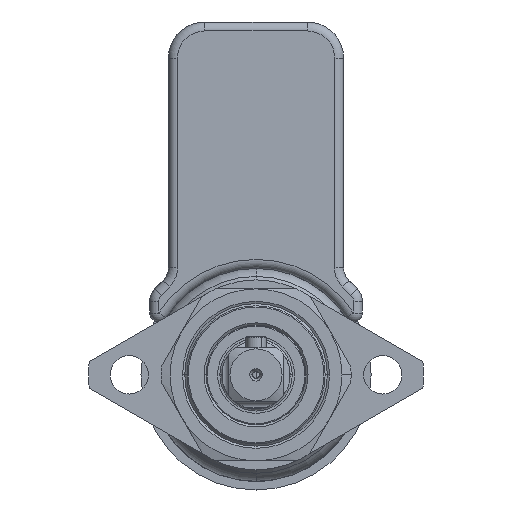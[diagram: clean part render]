
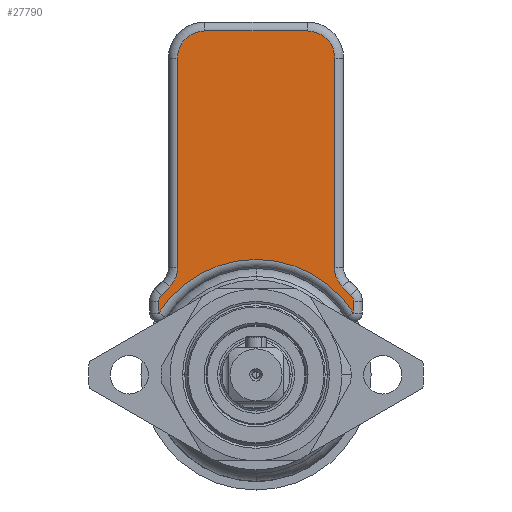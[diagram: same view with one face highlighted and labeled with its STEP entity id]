
A CAD part, left-side view. The second image highlights one B-rep face of the part: STEP entity #27790.
In plain terms, the highlighted planar face has unit normal (-1, 0, 0).
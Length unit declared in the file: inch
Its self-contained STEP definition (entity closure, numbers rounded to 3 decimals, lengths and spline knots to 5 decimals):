
#879 = VERTEX_POINT ( 'NONE', #36012 ) ;
#881 = VERTEX_POINT ( 'NONE', #36018 ) ;
#887 = VERTEX_POINT ( 'NONE', #36024 ) ;
#889 = VERTEX_POINT ( 'NONE', #35983 ) ;
#890 = VERTEX_POINT ( 'NONE', #35972 ) ;
#892 = VERTEX_POINT ( 'NONE', #36028 ) ;
#894 = VERTEX_POINT ( 'NONE', #35969 ) ;
#899 = VERTEX_POINT ( 'NONE', #35855 ) ;
#901 = VERTEX_POINT ( 'NONE', #35925 ) ;
#903 = VERTEX_POINT ( 'NONE', #35852 ) ;
#904 = VERTEX_POINT ( 'NONE', #35921 ) ;
#905 = VERTEX_POINT ( 'NONE', #35923 ) ;
#906 = VERTEX_POINT ( 'NONE', #35917 ) ;
#914 = VERTEX_POINT ( 'NONE', #35901 ) ;
#3788 = ORIENTED_EDGE ( 'NONE', *, *, #8491, .T. ) ;
#4080 = ORIENTED_EDGE ( 'NONE', *, *, #8194, .T. ) ;
#4081 = ORIENTED_EDGE ( 'NONE', *, *, #8193, .T. ) ;
#4083 = ORIENTED_EDGE ( 'NONE', *, *, #8074, .T. ) ;
#4084 = ORIENTED_EDGE ( 'NONE', *, *, #8197, .T. ) ;
#4085 = ORIENTED_EDGE ( 'NONE', *, *, #8192, .T. ) ;
#4087 = ORIENTED_EDGE ( 'NONE', *, *, #8073, .T. ) ;
#4088 = ORIENTED_EDGE ( 'NONE', *, *, #8075, .T. ) ;
#4090 = ORIENTED_EDGE ( 'NONE', *, *, #8468, .T. ) ;
#4092 = ORIENTED_EDGE ( 'NONE', *, *, #8198, .T. ) ;
#4093 = ORIENTED_EDGE ( 'NONE', *, *, #8476, .T. ) ;
#4094 = ORIENTED_EDGE ( 'NONE', *, *, #8480, .T. ) ;
#4120 = ORIENTED_EDGE ( 'NONE', *, *, #8484, .T. ) ;
#4123 = ORIENTED_EDGE ( 'NONE', *, *, #8489, .T. ) ;
#4630 = EDGE_LOOP ( 'NONE', ( #4123, #3788, #4120, #4094, #4093, #4090, #4092, #4083, #4088, #4087, #4081, #4080, #4085, #4084 ) ) ;
#5596 = CIRCLE ( 'NONE', #9126, 0.187 ) ;
#5600 = CIRCLE ( 'NONE', #9128, 0.063 ) ;
#5604 = LINE ( 'NONE', #16882, #5608 ) ;
#5608 = VECTOR ( 'NONE', #17039, 39.37008 ) ;
#5977 = LINE ( 'NONE', #31012, #5982 ) ;
#5981 = LINE ( 'NONE', #31015, #5987 ) ;
#5982 = VECTOR ( 'NONE', #30971, 39.37008 ) ;
#5984 = CIRCLE ( 'NONE', #9180, 0.188 ) ;
#5987 = VECTOR ( 'NONE', #30960, 39.37008 ) ;
#5991 = CIRCLE ( 'NONE', #9187, 0.188 ) ;
#5994 = LINE ( 'NONE', #31006, #5999 ) ;
#5999 = VECTOR ( 'NONE', #30952, 39.37008 ) ;
#6472 = CIRCLE ( 'NONE', #9338, 0.797 ) ;
#6475 = LINE ( 'NONE', #15514, #6479 ) ;
#6477 = CIRCLE ( 'NONE', #9349, 0.063 ) ;
#6479 = VECTOR ( 'NONE', #15510, 39.37008 ) ;
#6480 = LINE ( 'NONE', #15526, #6484 ) ;
#6482 = LINE ( 'NONE', #15532, #6487 ) ;
#6484 = VECTOR ( 'NONE', #15522, 39.37008 ) ;
#6486 = CIRCLE ( 'NONE', #9356, 0.187 ) ;
#6487 = VECTOR ( 'NONE', #15518, 39.37008 ) ;
#8073 = EDGE_CURVE ( 'NONE', #892, #890, #5596, .T. ) ;
#8074 = EDGE_CURVE ( 'NONE', #903, #894, #5600, .T. ) ;
#8075 = EDGE_CURVE ( 'NONE', #894, #892, #5604, .T. ) ;
#8192 = EDGE_CURVE ( 'NONE', #879, #889, #5977, .T. ) ;
#8193 = EDGE_CURVE ( 'NONE', #890, #881, #5981, .T. ) ;
#8194 = EDGE_CURVE ( 'NONE', #881, #879, #5984, .T. ) ;
#8197 = EDGE_CURVE ( 'NONE', #889, #906, #5991, .T. ) ;
#8198 = EDGE_CURVE ( 'NONE', #914, #903, #5994, .T. ) ;
#8468 = EDGE_CURVE ( 'NONE', #905, #914, #6472, .T. ) ;
#8476 = EDGE_CURVE ( 'NONE', #901, #905, #6475, .T. ) ;
#8480 = EDGE_CURVE ( 'NONE', #904, #901, #6477, .T. ) ;
#8484 = EDGE_CURVE ( 'NONE', #887, #904, #6480, .T. ) ;
#8489 = EDGE_CURVE ( 'NONE', #906, #899, #6482, .T. ) ;
#8491 = EDGE_CURVE ( 'NONE', #899, #887, #6486, .T. ) ;
#9126 = AXIS2_PLACEMENT_3D ( 'NONE', #16754, #16744, #16745 ) ;
#9128 = AXIS2_PLACEMENT_3D ( 'NONE', #16758, #17040, #16756 ) ;
#9180 = AXIS2_PLACEMENT_3D ( 'NONE', #30984, #30997, #30979 ) ;
#9187 = AXIS2_PLACEMENT_3D ( 'NONE', #30957, #30985, #31011 ) ;
#9338 = AXIS2_PLACEMENT_3D ( 'NONE', #15504, #15505, #15506 ) ;
#9349 = AXIS2_PLACEMENT_3D ( 'NONE', #15523, #15524, #15525 ) ;
#9356 = AXIS2_PLACEMENT_3D ( 'NONE', #15537, #15538, #15539 ) ;
#12061 = FACE_OUTER_BOUND ( 'NONE', #4630, .T. ) ;
#15504 = CARTESIAN_POINT ( 'NONE',  ( -3.10452, 0., 0.03784 ) ) ;
#15505 = DIRECTION ( 'NONE',  ( 1., 0., 0. ) ) ;
#15506 = DIRECTION ( 'NONE',  ( 0., 1., 0. ) ) ;
#15510 = DIRECTION ( 'NONE',  ( 0., 0., -1. ) ) ;
#15514 = CARTESIAN_POINT ( 'NONE',  ( -3.10452, 0.673, 0.54306 ) ) ;
#15518 = DIRECTION ( 'NONE',  ( 0., 0., -1. ) ) ;
#15522 = DIRECTION ( 'NONE',  ( 0., 0.707, -0.707 ) ) ;
#15523 = CARTESIAN_POINT ( 'NONE',  ( -3.10452, 0.61, 0.54306 ) ) ;
#15524 = DIRECTION ( 'NONE',  ( -1., 0., 0. ) ) ;
#15525 = DIRECTION ( 'NONE',  ( 0., 1., 0. ) ) ;
#15526 = CARTESIAN_POINT ( 'NONE',  ( -3.10452, 0.65455, 0.58761 ) ) ;
#15532 = CARTESIAN_POINT ( 'NONE',  ( -3.10452, 0.543, 0.54306 ) ) ;
#15537 = CARTESIAN_POINT ( 'NONE',  ( -3.10452, 0.73, 0.77661 ) ) ;
#15538 = DIRECTION ( 'NONE',  ( 1., 0., 0. ) ) ;
#15539 = DIRECTION ( 'NONE',  ( 0., 1., 0. ) ) ;
#16744 = DIRECTION ( 'NONE',  ( 1., 0., 0. ) ) ;
#16745 = DIRECTION ( 'NONE',  ( 0., 1., 0. ) ) ;
#16754 = CARTESIAN_POINT ( 'NONE',  ( -3.10452, -0.73, 0.77661 ) ) ;
#16756 = DIRECTION ( 'NONE',  ( 0., 1., 0. ) ) ;
#16758 = CARTESIAN_POINT ( 'NONE',  ( -3.10452, -0.61, 0.54306 ) ) ;
#16882 = CARTESIAN_POINT ( 'NONE',  ( -3.10452, -0.04455, 1.19761 ) ) ;
#17039 = DIRECTION ( 'NONE',  ( 0., 0.707, 0.707 ) ) ;
#17040 = DIRECTION ( 'NONE',  ( -1., 0., 0. ) ) ;
#24268 = AXIS2_PLACEMENT_3D ( 'NONE', #25742, #25747, #25748 ) ;
#25742 = CARTESIAN_POINT ( 'NONE',  ( -3.10452, 0.61, 0.54306 ) ) ;
#25743 = PLANE ( 'NONE',  #24268 ) ;
#25747 = DIRECTION ( 'NONE',  ( -1., 0., 0. ) ) ;
#25748 = DIRECTION ( 'NONE',  ( 0., 1., 0. ) ) ;
#27790 = ADVANCED_FACE ( 'NONE', ( #12061 ), #25743, .T. ) ;
#30952 = DIRECTION ( 'NONE',  ( 0., 0., 1. ) ) ;
#30957 = CARTESIAN_POINT ( 'NONE',  ( -3.10452, 0.355, 2.22484 ) ) ;
#30960 = DIRECTION ( 'NONE',  ( 0., 0., 1. ) ) ;
#30971 = DIRECTION ( 'NONE',  ( 0., 1., 0. ) ) ;
#30979 = DIRECTION ( 'NONE',  ( 0., 1., 0. ) ) ;
#30984 = CARTESIAN_POINT ( 'NONE',  ( -3.10452, -0.355, 2.22484 ) ) ;
#30985 = DIRECTION ( 'NONE',  ( -1., 0., 0. ) ) ;
#30997 = DIRECTION ( 'NONE',  ( -1., 0., 0. ) ) ;
#31006 = CARTESIAN_POINT ( 'NONE',  ( -3.10452, -0.673, 0.54306 ) ) ;
#31011 = DIRECTION ( 'NONE',  ( 0., 1., 0. ) ) ;
#31012 = CARTESIAN_POINT ( 'NONE',  ( -3.10452, 0.61, 2.41284 ) ) ;
#31015 = CARTESIAN_POINT ( 'NONE',  ( -3.10452, -0.543, 0.54306 ) ) ;
#35852 = CARTESIAN_POINT ( 'NONE',  ( -3.10452, -0.673, 0.54306 ) ) ;
#35855 = CARTESIAN_POINT ( 'NONE',  ( -3.10452, 0.543, 0.77661 ) ) ;
#35901 = CARTESIAN_POINT ( 'NONE',  ( -3.10452, -0.673, 0.46478 ) ) ;
#35917 = CARTESIAN_POINT ( 'NONE',  ( -3.10452, 0.543, 2.22484 ) ) ;
#35921 = CARTESIAN_POINT ( 'NONE',  ( -3.10452, 0.65455, 0.58761 ) ) ;
#35923 = CARTESIAN_POINT ( 'NONE',  ( -3.10452, 0.673, 0.46478 ) ) ;
#35925 = CARTESIAN_POINT ( 'NONE',  ( -3.10452, 0.673, 0.54306 ) ) ;
#35969 = CARTESIAN_POINT ( 'NONE',  ( -3.10452, -0.65455, 0.58761 ) ) ;
#35972 = CARTESIAN_POINT ( 'NONE',  ( -3.10452, -0.543, 0.77661 ) ) ;
#35983 = CARTESIAN_POINT ( 'NONE',  ( -3.10452, 0.355, 2.41284 ) ) ;
#36012 = CARTESIAN_POINT ( 'NONE',  ( -3.10452, -0.355, 2.41284 ) ) ;
#36018 = CARTESIAN_POINT ( 'NONE',  ( -3.10452, -0.543, 2.22484 ) ) ;
#36024 = CARTESIAN_POINT ( 'NONE',  ( -3.10452, 0.59777, 0.64438 ) ) ;
#36028 = CARTESIAN_POINT ( 'NONE',  ( -3.10452, -0.59777, 0.64438 ) ) ;
